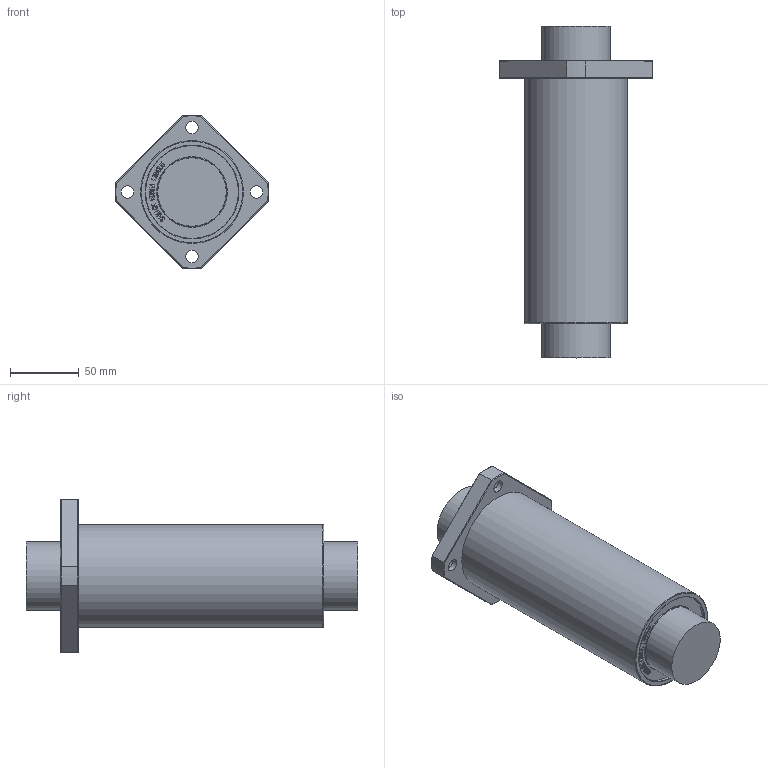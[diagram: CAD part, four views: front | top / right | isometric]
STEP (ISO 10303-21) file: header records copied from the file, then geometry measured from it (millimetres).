
FILE_DESCRIPTION(/* description */ (''),/* implementation_level */ '2;1');
FILE_NAME(/* name */ 'W:\(01) 2024년 홈페이지 CAD파일 최신화\LMEK_L\IPT\LMEK50LUU.stp',/* time_stamp */ '2025-01-25T11:02:29+09:00',/* author */ ('서우현'),/* organization */ (''),/* preprocessor_version */ 'ST-DEVELOPER v17.2',/* originating_system */ 'Autodesk Inventor 2019',/* authorisation */ '');
FILE_SCHEMA (('AUTOMOTIVE_DESIGN { 1 0 10303 214 3 1 1 }'));
Length unit declared in the file: millimetre
Products named in the file (1): LM5
Bounding box: 111.91 x 242 x 111.91 mm (x, y, z)
Volume: 973575.8 mm3; surface area: 72541.7 mm2
Topology: 1 solids, 1 shells, 872 faces, 2450 edges, 1636 vertices
Faces by surface type: bspline 600, plane 240, cylinder 18, cone 12, torus 2
Full cylindrical faces by diameter (mm): 9 x4, 14 x4, 50 x2, 67.7 x2, 75 x2
Entity records: 29988 total; most frequent: CARTESIAN_POINT 11127, ORIENTED_EDGE 4900, EDGE_CURVE 2450, DIRECTION 1862, VERTEX_POINT 1636, B_SPLINE_CURVE_WITH_KNOTS 1200, LINE 1152, VECTOR 1152
